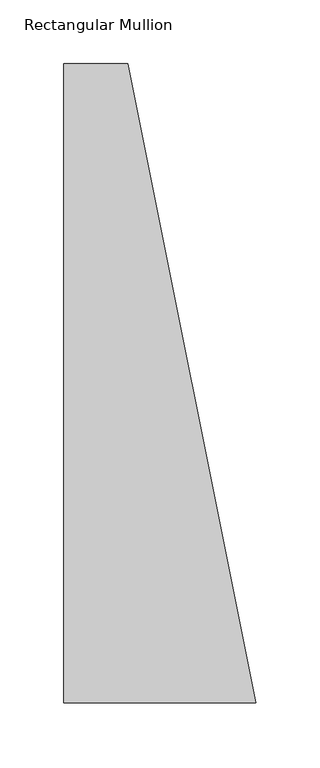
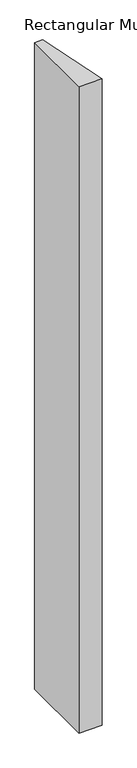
"""IFC4 building model written with IfcOpenShell, lengths in millimetres: member geometry, Rectangular Mullion : 500(350+150)x150x50mm."""

from ifc_helpers import new_model, si_unit, frame, origin, place, context, project, spatial, polyline, outline, extrude, source, transform, mapped, element, save


def rectangular_mullion_1ed7503f(model_context):
    return source(origin(), model_context, "Body", "SweptSolid", [
        extrude(outline(polyline([(-150.0, 150.0), (-100.0, 150.0), (0.0, -350.0), (-150.0, -350.0), (-150.0, 150.0)])), frame((0.0, 0.0, -4450.0), z_axis=(0.0, 0.0, 1.0), x_axis=(1.0, 0.0, 0.0)), (0.0, 0.0, 1.0), 4450.0),
    ])


if __name__ == "__main__":
    model = new_model("IFC4")
    model_context = context("Model", 3, world=origin())
    ifc_project = project(units=[si_unit("LENGTHUNIT", "METRE", prefix="MILLI")], contexts=[model_context])
    site = spatial("IfcSite", under=ifc_project)
    building = spatial("IfcBuilding", under=site)
    placement = place(None, origin())
    rectangular_mullion_shape = rectangular_mullion_1ed7503f(model_context)
    element("IfcMember", 1, ObjectType="Rectangular Mullion : 500(350+150)x150x50mm", at=placement, inside=building, context=model_context, shape_type="MappedRepresentation", body=[
        mapped(rectangular_mullion_shape, transform((0.0, 0.0, 0.0), x_axis=(1.0, 0.0, 0.0), y_axis=(0.0, 1.0, 0.0), z_axis=(0.0, 0.0, 1.0))),
    ])
    save(model, "model.ifc")
